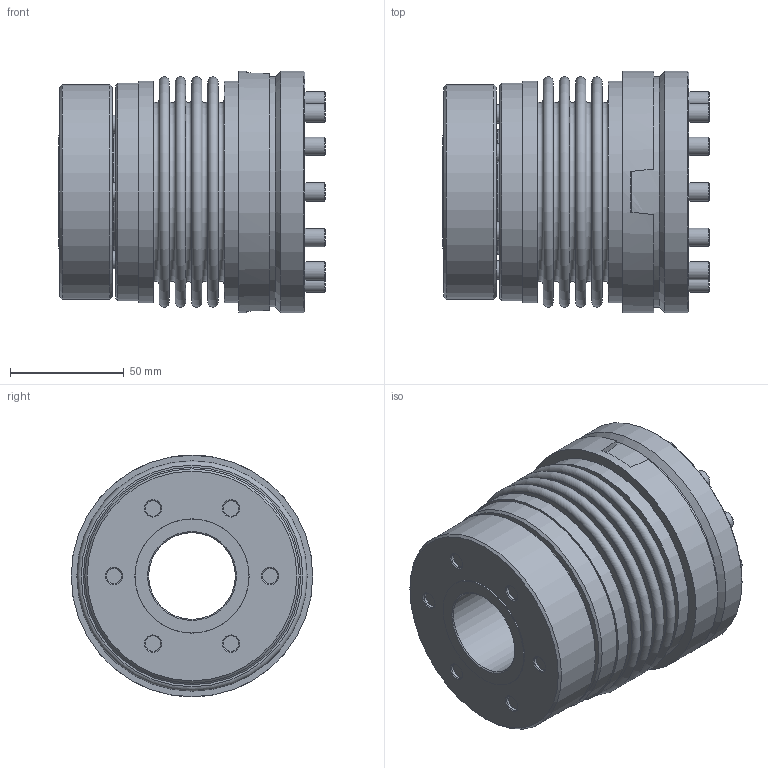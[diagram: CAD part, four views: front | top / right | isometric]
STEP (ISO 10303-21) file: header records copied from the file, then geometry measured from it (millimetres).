
FILE_DESCRIPTION( ( 'Unknown' ), '1' );
FILE_NAME( 'F:/JAKOB-STEP+IGES-Dateien/STEP-Dateien/KPP-F/KPP-F 400.stp', 'Unknown', ( 'Unknown' ), ( 'Unknown' ), 'PSStep 10.1', 'Unknown', ' ' );
FILE_SCHEMA( ( 'AUTOMOTIVE_DESIGN { 1 0 10303 214 1 1 1 1 }' ) );
Length unit declared in the file: millimetre
Products named in the file (1): 28521468
Bounding box: 116.99 x 106 x 106 mm (x, y, z)
Volume: 436328.1 mm3; surface area: 173417.8 mm2
Topology: 1 solids, 1 shells, 538 faces, 1201 edges, 757 vertices
Faces by surface type: plane 345, cylinder 106, cone 48, torus 39
Full cylindrical faces by diameter (mm): 6.8 x10, 8 x18, 8.6 x18, 9 x10, 13 x18, 13.5 x18, 38 x1, 54.7 x1, 55 x1, 94 x1, 95.4 x2, 97.2 x2, 100 x1, 101 x1, 106 x2
Entity records: 17684 total; most frequent: DIRECTION 2462, CARTESIAN_POINT 2181, ORIENTED_EDGE 1860, AXIS2_PLACEMENT_3D 997, EDGE_CURVE 930, EDGE_LOOP 864, VERTEX_POINT 692, FACE_OUTER_BOUND 679
